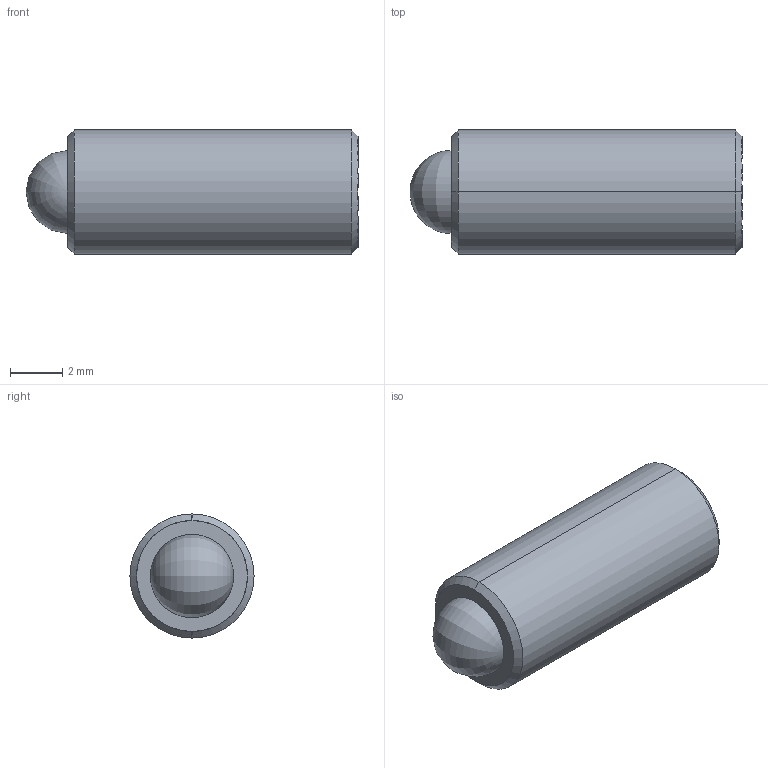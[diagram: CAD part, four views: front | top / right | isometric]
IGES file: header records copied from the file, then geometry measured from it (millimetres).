
Start section: SolidWorks IGES file using analytic representation for surfaces
Global section: file name: C:\Users\workpc\Desktop\KMA Solidworks\TS187-100-500.IGS; native system: SolidWorks 2013; preprocessor: SolidWorks 2013; author: workpc; date: 130211.105538; units: inch
Bounding box: 12.7 x 4.75 x 4.75 mm (x, y, z)
Surface area: 259.9 mm2 (no closed solid volume)
Topology: 0 solids, 0 shells, 20 faces, 204 edges, 200 vertices
Faces by surface type: revolution 10, bspline 10
